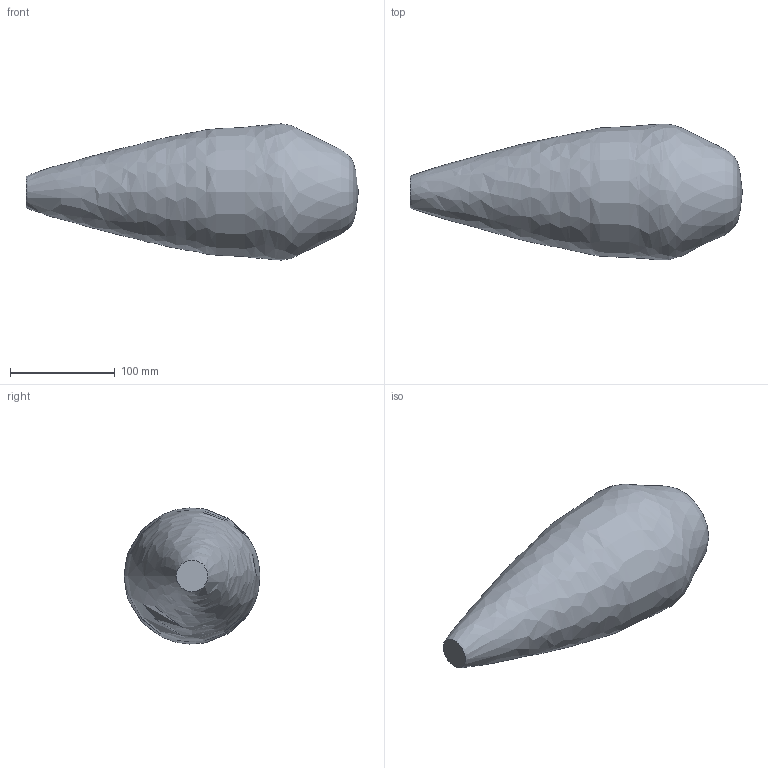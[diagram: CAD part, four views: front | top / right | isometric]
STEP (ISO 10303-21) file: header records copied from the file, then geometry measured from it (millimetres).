
FILE_DESCRIPTION((''),'2;1');
FILE_NAME('J:\Projekte\Kunststoff-Blechteile\Zeichnungen\Bibliothek Inventor\3D Solids\nano\STP\nano-24\detection range 240 mm plate.stp','2013-05-06T16:53:18',('Oliver Liedtke'),(''),'Autodesk Inventor 2013','Autodesk Inventor 2013','');
FILE_SCHEMA(('AUTOMOTIVE_DESIGN { 1 0 10303 214 1 1 1 1 }'));
Length unit declared in the file: millimetre
Products named in the file (1): detection range 240 mm plate
Bounding box: 316.21 x 129.35 x 129.56 mm (x, y, z)
Volume: 2394095.2 mm3; surface area: 100348.1 mm2
Topology: 1 solids, 1 shells, 2 faces, 3 edges, 2 vertices
Faces by surface type: revolution 1, plane 1
Entity records: 112 total; most frequent: CARTESIAN_POINT 36, DIRECTION 7, ORIENTED_EDGE 4, AXIS2_PLACEMENT_3D 3, COLOUR_RGB 3, FILL_AREA_STYLE_COLOUR 3, FILL_AREA_STYLE 3, SURFACE_STYLE_FILL_AREA 3
